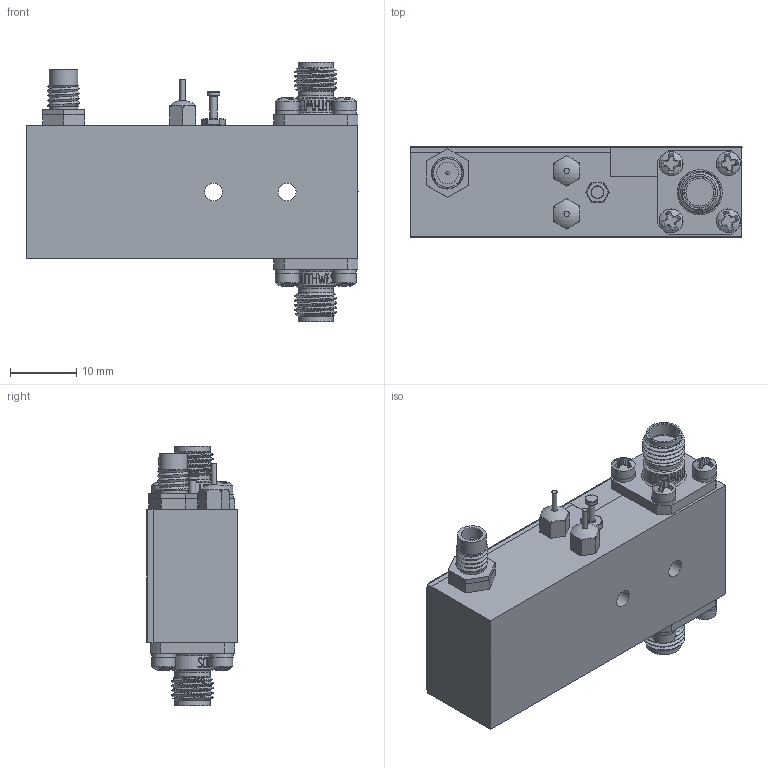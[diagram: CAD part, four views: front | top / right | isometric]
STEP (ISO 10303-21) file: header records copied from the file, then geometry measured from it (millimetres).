
FILE_DESCRIPTION (( 'STEP AP214' ), '1' );
FILE_NAME ('26926126 - FINAL ASSEMBLY.STEP', '2025-10-24T20:04:05', ( '' ), ( '' ), 'SwSTEP 2.0', 'SolidWorks 2024', '' );
FILE_SCHEMA (( 'AUTOMOTIVE_DESIGN' ));
Length unit declared in the file: inch
Products named in the file (1): 26926126 - FINAL ASSEMBLY
Bounding box: 50.06 x 13.59 x 39.12 mm (x, y, z)
Volume: 9983.2 mm3; surface area: 13188.4 mm2
Topology: 41 solids, 41 shells, 1178 faces, 3976 edges, 3092 vertices
Faces by surface type: plane 725, cylinder 208, cone 111, bspline 69, sphere 37, torus 28
Full cylindrical faces by diameter (mm): 0.254 x2, 0.508 x1, 0.813 x4, 0.889 x1, 1.067 x1, 1.191 x6, 1.524 x10, 1.575 x1, 1.6 x1, 1.778 x15, 1.93 x1, 2.057 x2, 2.159 x4, 2.184 x22, 2.388 x2, 2.654 x8, 2.692 x2, 2.794 x2, 2.819 x2, 2.845 x4, 3.277 x1, 3.556 x8, 4.293 x2, 4.572 x2, 4.644 x2, 4.712 x2, 4.826 x1, 5.347 x4, 6.287 x2
Entity records: 69596 total; most frequent: CARTESIAN_POINT 23954, ORIENTED_EDGE 7380, DIRECTION 5319, EDGE_CURVE 3690, VERTEX_POINT 3014, AXIS2_PLACEMENT_3D 1832, LINE 1655, VECTOR 1655
